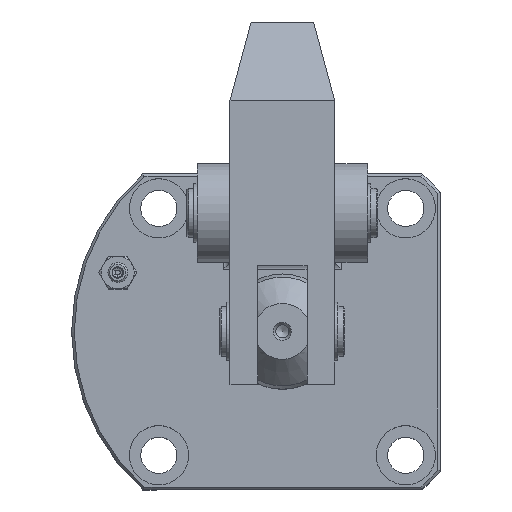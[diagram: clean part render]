
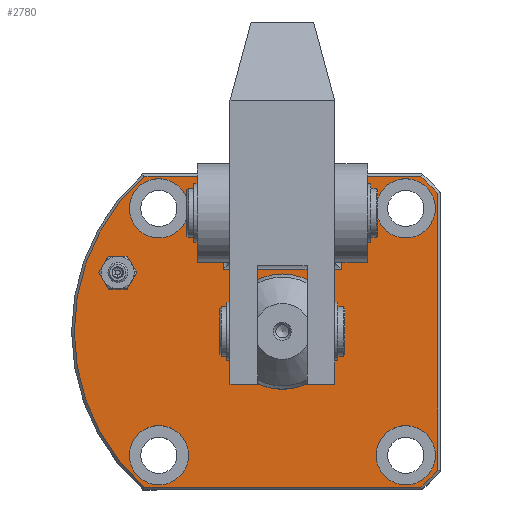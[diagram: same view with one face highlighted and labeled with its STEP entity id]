
A CAD part, top view. The second image highlights one B-rep face of the part: STEP entity #2780.
In plain terms, the highlighted planar face has unit normal (0, 0, 1).
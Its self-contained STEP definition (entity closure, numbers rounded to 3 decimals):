
#197=PLANE('',#3099);
#266=CIRCLE('',#3012,5.);
#300=CIRCLE('',#3080,9.);
#301=CIRCLE('',#3082,9.);
#302=CIRCLE('',#3084,9.);
#303=CIRCLE('',#3086,9.);
#304=CIRCLE('',#3088,17.5);
#306=CIRCLE('',#3091,63.2);
#307=CIRCLE('',#3094,63.2);
#308=CIRCLE('',#3097,63.2);
#445=LINE('',#4629,#583);
#458=LINE('',#4808,#596);
#459=LINE('',#4817,#597);
#461=LINE('',#4828,#599);
#462=LINE('',#4830,#600);
#463=LINE('',#4832,#601);
#464=LINE('',#4834,#602);
#583=VECTOR('',#3425,1000.);
#596=VECTOR('',#3592,1000.);
#597=VECTOR('',#3599,1000.);
#599=VECTOR('',#3607,1000.);
#600=VECTOR('',#3610,1000.);
#601=VECTOR('',#3611,1000.);
#602=VECTOR('',#3612,1000.);
#984=ORIENTED_EDGE('',*,*,#1566,.T.);
#985=ORIENTED_EDGE('',*,*,#1567,.T.);
#986=ORIENTED_EDGE('',*,*,#1568,.T.);
#987=ORIENTED_EDGE('',*,*,#1569,.T.);
#988=ORIENTED_EDGE('',*,*,#1496,.T.);
#989=ORIENTED_EDGE('',*,*,#1564,.T.);
#990=ORIENTED_EDGE('',*,*,#1562,.T.);
#991=ORIENTED_EDGE('',*,*,#1561,.T.);
#992=ORIENTED_EDGE('',*,*,#1559,.T.);
#993=ORIENTED_EDGE('',*,*,#1557,.T.);
#994=ORIENTED_EDGE('',*,*,#1487,.F.);
#995=ORIENTED_EDGE('',*,*,#1553,.T.);
#996=ORIENTED_EDGE('',*,*,#1551,.F.);
#997=ORIENTED_EDGE('',*,*,#1550,.F.);
#998=ORIENTED_EDGE('',*,*,#1549,.F.);
#999=ORIENTED_EDGE('',*,*,#1552,.F.);
#1487=EDGE_CURVE('',#1819,#1819,#266,.T.);
#1496=EDGE_CURVE('',#1828,#1829,#445,.T.);
#1549=EDGE_CURVE('',#1868,#1868,#300,.T.);
#1550=EDGE_CURVE('',#1869,#1869,#301,.T.);
#1551=EDGE_CURVE('',#1870,#1870,#302,.T.);
#1552=EDGE_CURVE('',#1871,#1871,#303,.T.);
#1553=EDGE_CURVE('',#1872,#1872,#304,.T.);
#1557=EDGE_CURVE('',#1874,#1875,#306,.T.);
#1559=EDGE_CURVE('',#1876,#1874,#458,.T.);
#1561=EDGE_CURVE('',#1877,#1876,#307,.T.);
#1562=EDGE_CURVE('',#1878,#1877,#459,.T.);
#1564=EDGE_CURVE('',#1829,#1878,#308,.T.);
#1566=EDGE_CURVE('',#1875,#1879,#461,.T.);
#1567=EDGE_CURVE('',#1879,#1880,#462,.F.);
#1568=EDGE_CURVE('',#1880,#1881,#463,.F.);
#1569=EDGE_CURVE('',#1881,#1828,#464,.F.);
#1819=VERTEX_POINT('',#4601);
#1828=VERTEX_POINT('',#4630);
#1829=VERTEX_POINT('',#4631);
#1868=VERTEX_POINT('',#4775);
#1869=VERTEX_POINT('',#4778);
#1870=VERTEX_POINT('',#4781);
#1871=VERTEX_POINT('',#4784);
#1872=VERTEX_POINT('',#4787);
#1874=VERTEX_POINT('',#4795);
#1875=VERTEX_POINT('',#4800);
#1876=VERTEX_POINT('',#4807);
#1877=VERTEX_POINT('',#4814);
#1878=VERTEX_POINT('',#4818);
#1879=VERTEX_POINT('',#4827);
#1880=VERTEX_POINT('',#4831);
#1881=VERTEX_POINT('',#4833);
#2149=EDGE_LOOP('',(#984,#985,#986,#987,#988,#989,#990,#991,#992,#993));
#2150=EDGE_LOOP('',(#994));
#2151=EDGE_LOOP('',(#995));
#2152=EDGE_LOOP('',(#996));
#2153=EDGE_LOOP('',(#997));
#2154=EDGE_LOOP('',(#998));
#2155=EDGE_LOOP('',(#999));
#2449=FACE_BOUND('',#2149,.T.);
#2450=FACE_BOUND('',#2150,.T.);
#2451=FACE_BOUND('',#2151,.T.);
#2452=FACE_BOUND('',#2152,.T.);
#2453=FACE_BOUND('',#2153,.T.);
#2454=FACE_BOUND('',#2154,.T.);
#2455=FACE_BOUND('',#2155,.T.);
#2780=ADVANCED_FACE('',(#2449,#2450,#2451,#2452,#2453,#2454,#2455),#197,
 .T.);
#3012=AXIS2_PLACEMENT_3D('',#4600,#3409,#3410);
#3080=AXIS2_PLACEMENT_3D('',#4774,#3566,#3567);
#3082=AXIS2_PLACEMENT_3D('',#4777,#3570,#3571);
#3084=AXIS2_PLACEMENT_3D('',#4780,#3574,#3575);
#3086=AXIS2_PLACEMENT_3D('',#4783,#3578,#3579);
#3088=AXIS2_PLACEMENT_3D('',#4786,#3582,#3583);
#3091=AXIS2_PLACEMENT_3D('',#4801,#3588,#3589);
#3094=AXIS2_PLACEMENT_3D('',#4815,#3595,#3596);
#3097=AXIS2_PLACEMENT_3D('',#4824,#3602,#3603);
#3099=AXIS2_PLACEMENT_3D('',#4829,#3608,#3609);
#3409=DIRECTION('',(0.,0.,1.));
#3410=DIRECTION('',(0.,-1.,0.));
#3425=DIRECTION('',(-1.,0.,0.));
#3566=DIRECTION('',(0.,0.,1.));
#3567=DIRECTION('',(1.,0.,0.));
#3570=DIRECTION('',(0.,0.,1.));
#3571=DIRECTION('',(1.,0.,0.));
#3574=DIRECTION('',(0.,0.,1.));
#3575=DIRECTION('',(1.,0.,0.));
#3578=DIRECTION('',(0.,0.,1.));
#3579=DIRECTION('',(1.,0.,0.));
#3582=DIRECTION('',(0.,0.,-1.));
#3583=DIRECTION('',(0.,-1.,0.));
#3588=DIRECTION('',(0.,0.,1.));
#3589=DIRECTION('',(0.,-1.,0.));
#3592=DIRECTION('',(0.,1.,0.));
#3595=DIRECTION('',(0.,0.,1.));
#3596=DIRECTION('',(0.,-1.,0.));
#3599=DIRECTION('',(1.,0.,0.));
#3602=DIRECTION('',(0.,0.,1.));
#3603=DIRECTION('',(0.,-1.,0.));
#3607=DIRECTION('',(-1.,0.,0.));
#3608=DIRECTION('',(0.,0.,1.));
#3609=DIRECTION('',(0.,-1.,0.));
#3610=DIRECTION('',(0.,1.,0.));
#3611=DIRECTION('',(1.,0.,0.));
#3612=DIRECTION('',(0.,-1.,0.));
#4600=CARTESIAN_POINT('',(-65.,68.,17.6));
#4601=CARTESIAN_POINT('',(-65.,63.,17.6));
#4629=CARTESIAN_POINT('',(-15.,97.2,17.6));
#4630=CARTESIAN_POINT('',(-32.9,97.2,17.6));
#4631=CARTESIAN_POINT('',(-57.029,97.2,17.6));
#4774=CARTESIAN_POINT('',(-52.5,87.5,17.6));
#4775=CARTESIAN_POINT('',(-43.5,87.5,17.6));
#4777=CARTESIAN_POINT('',(22.5,87.5,17.6));
#4778=CARTESIAN_POINT('',(31.5,87.5,17.6));
#4780=CARTESIAN_POINT('',(22.5,12.5,17.6));
#4781=CARTESIAN_POINT('',(31.5,12.5,17.6));
#4783=CARTESIAN_POINT('',(-52.5,12.5,17.6));
#4784=CARTESIAN_POINT('',(-43.5,12.5,17.6));
#4786=CARTESIAN_POINT('',(-15.,50.,17.6));
#4787=CARTESIAN_POINT('',(-15.,32.5,17.6));
#4795=CARTESIAN_POINT('',(32.2,92.029,17.6));
#4800=CARTESIAN_POINT('',(27.029,97.2,17.6));
#4801=CARTESIAN_POINT('',(-15.,50.,17.6));
#4807=CARTESIAN_POINT('',(32.2,7.971,17.6));
#4808=CARTESIAN_POINT('',(32.2,50.,17.6));
#4814=CARTESIAN_POINT('',(27.029,2.8,17.6));
#4815=CARTESIAN_POINT('',(-15.,50.,17.6));
#4817=CARTESIAN_POINT('',(-15.,2.8,17.6));
#4818=CARTESIAN_POINT('',(-57.029,2.8,17.6));
#4824=CARTESIAN_POINT('',(-15.,50.,17.6));
#4827=CARTESIAN_POINT('',(2.9,97.2,17.6));
#4828=CARTESIAN_POINT('',(-15.,97.2,17.6));
#4829=CARTESIAN_POINT('',(-15.,50.,17.6));
#4830=CARTESIAN_POINT('',(2.9,71.,17.6));
#4831=CARTESIAN_POINT('',(2.9,69.,17.6));
#4832=CARTESIAN_POINT('',(-15.,69.,17.6));
#4833=CARTESIAN_POINT('',(-32.9,69.,17.6));
#4834=CARTESIAN_POINT('',(-32.9,50.,17.6));
